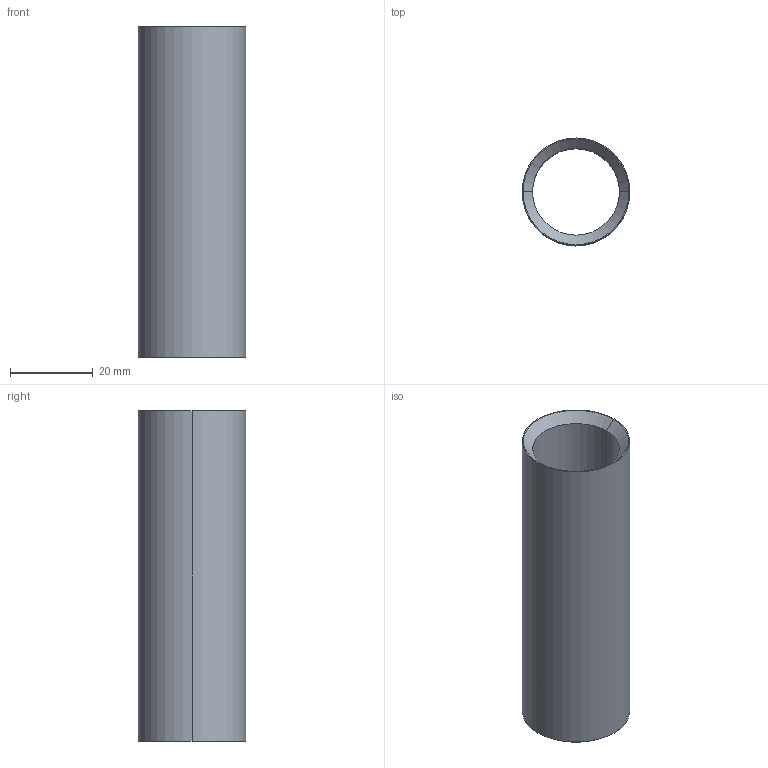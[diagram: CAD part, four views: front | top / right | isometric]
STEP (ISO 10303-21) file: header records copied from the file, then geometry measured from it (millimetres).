
FILE_DESCRIPTION (( 'STEP AP214' ), '1' );
FILE_NAME ('OptiKit C-GTY-240.STEP', '2020-05-19T08:37:35', ( '' ), ( '' ), 'SwSTEP 2.0', 'SolidWorks 2018', '' );
FILE_SCHEMA (( 'AUTOMOTIVE_DESIGN' ));
Length unit declared in the file: millimetre
Products named in the file (1): OptiKit  C-GTY-240
Bounding box: 26 x 26 x 80 mm (x, y, z)
Volume: 14391 mm3; surface area: 12017.5 mm2
Topology: 1 solids, 1 shells, 10 faces, 20 edges, 12 vertices
Faces by surface type: cone 4, cylinder 4, plane 2
Entity records: 302 total; most frequent: DIRECTION 54, CARTESIAN_POINT 43, ORIENTED_EDGE 40, AXIS2_PLACEMENT_3D 23, EDGE_CURVE 20, VERTEX_POINT 12, CIRCLE 12, EDGE_LOOP 12
